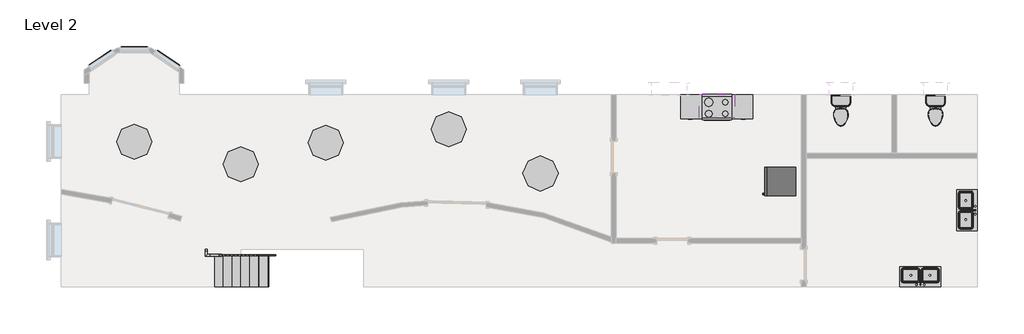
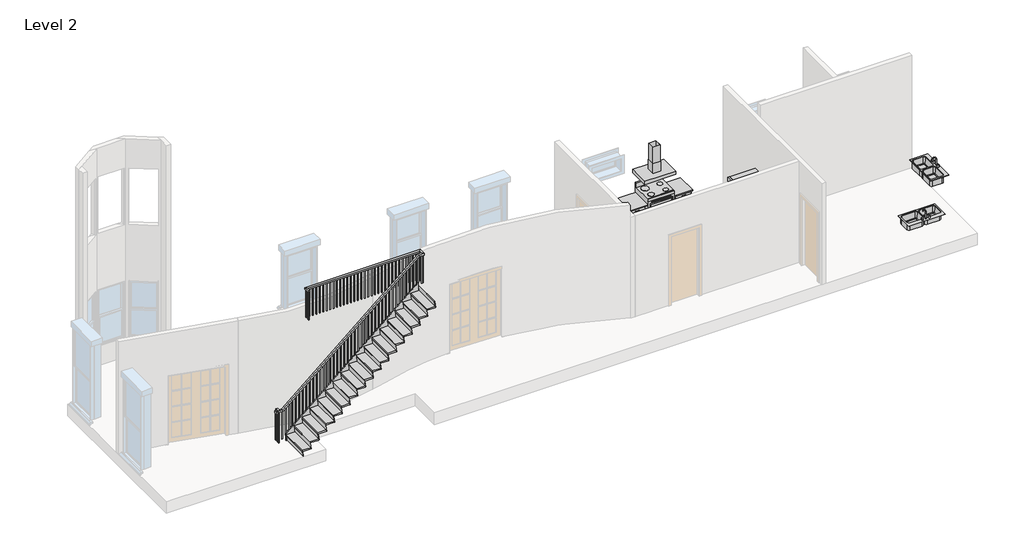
# One storey, part 2 of 2: 6 furniture elements, 6 proxies, 4 flow terminals, 1 member, 1 railing, 1 stair flight.
"""IFC4 building model written with IfcOpenShell, lengths in millimetres."""

from ifc_helpers import new_model, si_unit, frame, origin, place, context, project, spatial, polyline, outline, extrude, faceted_brep, transform, mapped, element, save
from components import bay_trim_box_faced_hosted_bay_trim_box_faced_hosted_1a43beb2, kitchen_exhausthood_kitchen_exhausthood_eb094368, proxy_fbb4c072, proxy_a13a33b2, flow_terminal_a53be723, flow_terminal_c7f2ea3e, toilet_domestic_3d_toilet_domestic_3d_f7549cf7, toilet_domestic_3d_toilet_domestic_3d_183bbd19, furniture_1bd23331, furniture_905aceb5, stair_flight_b2fd968c

model = new_model("IFC4")

# Units and contexts
model_context = context("Model", 3, world=origin())
ifc_project = project(units=[si_unit("LENGTHUNIT", "METRE", prefix="MILLI")], contexts=[model_context])

# Site, building, storey
site = spatial("IfcSite", under=ifc_project)
building = spatial("IfcBuilding", under=site)
storey = spatial("IfcBuildingStorey", under=building, Name="Level 2", Elevation=3505.2)

# Proxies
placement = place(None, origin())
bay_trim_box_faced_hosted_bay_trim_box_faced_hosted_shape = bay_trim_box_faced_hosted_bay_trim_box_faced_hosted_1a43beb2(model_context)
element("IfcBuildingElementProxy", 1, Name="Bay trim box faced hosted : Bay trim box faced hosted", ObjectType="Bay trim box faced hosted : Bay trim box faced hosted", at=placement, inside=storey, context=model_context, shape_type="MappedRepresentation", body=[
    mapped(bay_trim_box_faced_hosted_bay_trim_box_faced_hosted_shape, transform((-18108.7207329, 4424.3935985, 3698.6965292), x_axis=(-1.0, 0.0, 0.0), y_axis=(0.0, 0.0, 1.0), z_axis=(0.0, 1.0, 0.0))),
])
element("IfcBuildingElementProxy", 2, Name="Bay trim box faced hosted : Bay trim box faced hosted", ObjectType="Bay trim box faced hosted : Bay trim box faced hosted", at=placement, inside=storey, context=model_context, shape_type="MappedRepresentation", body=[
    mapped(bay_trim_box_faced_hosted_bay_trim_box_faced_hosted_shape, transform((-18975.4874091, 4146.0440673, 3698.6965292), x_axis=(-0.8290375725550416, -0.559192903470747, 0.0), y_axis=(0.0, 0.0, 1.0), z_axis=(-0.559192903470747, 0.8290375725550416, 0.0))),
])
element("IfcBuildingElementProxy", 3, Name="Bay trim box faced hosted : Bay trim box faced hosted", ObjectType="Bay trim box faced hosted : Bay trim box faced hosted", at=placement, inside=storey, context=model_context, shape_type="MappedRepresentation", body=[
    mapped(bay_trim_box_faced_hosted_bay_trim_box_faced_hosted_shape, transform((-17227.4903769, 4136.2751051, 3698.6965292), x_axis=(-0.8290375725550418, 0.5591929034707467, 0.0), y_axis=(0.0, 0.0, 1.0), z_axis=(0.5591929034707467, 0.8290375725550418, 0.0))),
])
kitchen_exhausthood_kitchen_exhausthood_shape = kitchen_exhausthood_kitchen_exhausthood_eb094368(model_context)
element("IfcBuildingElementProxy", 4, Name="Kitchen_ExhaustHood : Kitchen_ExhaustHood", ObjectType="Kitchen_ExhaustHood : Kitchen_ExhaustHood", at=placement, inside=storey, context=model_context, shape_type="MappedRepresentation", body=[
    mapped(kitchen_exhausthood_kitchen_exhausthood_shape, transform((-2932.2535292, 2913.0935985, 3962.4), x_axis=(1.0, 0.0, 0.0), y_axis=(0.0, 1.0, 0.0), z_axis=(0.0, 0.0, 1.0))),
])
proxy_shape = proxy_fbb4c072(model_context)
element("IfcBuildingElementProxy", 5, Name="Range : 30\" x 26\"", ObjectType="Range : 30\" x 26\"", at=placement, inside=storey, context=model_context, shape_type="MappedRepresentation", body=[
    mapped(proxy_shape, transform((-3313.2535292, 2557.5899218, 3505.2), x_axis=(1.0, 0.0, 0.0), y_axis=(0.0, 1.0, 0.0), z_axis=(0.0, 0.0, 1.0))),
])
proxy_2_shape = proxy_a13a33b2(model_context)
element("IfcBuildingElementProxy", 6, Name="Refrigerator : 30\" x 32\" RH", ObjectType="Refrigerator : 30\" x 32\" RH", at=placement, inside=storey, context=model_context, shape_type="MappedRepresentation", body=[
    mapped(proxy_2_shape, transform((-1276.1025007, 952.5310985, 3505.2), x_axis=(0.0, -1.0000000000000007, 0.0), y_axis=(1.0000000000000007, 0.0, 0.0), z_axis=(0.0, 0.0, 1.0))),
])

# Flow terminals
flow_terminal_shape = flow_terminal_a53be723(model_context)
element("IfcFlowTerminal", 7, ObjectType="Sink Kitchen-Double : 42\" x 21\"", at=placement, inside=storey, context=model_context, shape_type="MappedRepresentation", body=[
    mapped(flow_terminal_shape, transform((2379.3357114, -1529.5610004, 3505.2), x_axis=(-1.0000000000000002, 0.0, 0.0), y_axis=(0.0, -1.0000000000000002, 0.0), z_axis=(0.0, 0.0, 1.0))),
])
flow_terminal_2_shape = flow_terminal_c7f2ea3e(model_context)
element("IfcFlowTerminal", 8, ObjectType="Sink Kitchen-Double : 42\" x 21\"", at=placement, inside=storey, context=model_context, shape_type="MappedRepresentation", body=[
    mapped(flow_terminal_2_shape, transform((3580.5010697, 185.9543579, 3505.2), x_axis=(0.0, 1.0, 0.0), y_axis=(-1.0, 0.0, 0.0), z_axis=(0.0, 0.0, 1.0))),
])
toilet_domestic_3d_toilet_domestic_3d_shape = toilet_domestic_3d_toilet_domestic_3d_f7549cf7(model_context)
toilet_domestic_3d_toilet_domestic_3d_2_shape = toilet_domestic_3d_toilet_domestic_3d_183bbd19(model_context)
element("IfcFlowTerminal", 9, ObjectType="Toilet-Domestic-3D : Toilet-Domestic-3D", at=placement, inside=storey, context=model_context, shape_type="MappedRepresentation", body=[
    mapped(toilet_domestic_3d_toilet_domestic_3d_shape, transform((2757.3464708, 2697.1935985, 3505.2), x_axis=(1.0, 0.0, 0.0), y_axis=(0.0, 1.0, 0.0), z_axis=(0.0, 0.0, 1.0))),
    mapped(toilet_domestic_3d_toilet_domestic_3d_2_shape, transform((2757.3464708, 2697.1935985, 3505.2), x_axis=(1.0, 0.0, 0.0), y_axis=(0.0, 1.0, 0.0), z_axis=(0.0, 0.0, 1.0))),
])
element("IfcFlowTerminal", 10, ObjectType="Toilet-Domestic-3D : Toilet-Domestic-3D", at=placement, inside=storey, context=model_context, shape_type="MappedRepresentation", body=[
    mapped(toilet_domestic_3d_toilet_domestic_3d_shape, transform((293.5464708, 2697.1935985, 3505.2), x_axis=(1.0, 0.0, 0.0), y_axis=(0.0, 1.0, 0.0), z_axis=(0.0, 0.0, 1.0))),
    mapped(toilet_domestic_3d_toilet_domestic_3d_2_shape, transform((293.5464708, 2697.1935985, 3505.2), x_axis=(1.0, 0.0, 0.0), y_axis=(0.0, 1.0, 0.0), z_axis=(0.0, 0.0, 1.0))),
])

# Furniture
furniture_shape = furniture_1bd23331(model_context)
element("IfcFurniture", 11, ObjectType="Credenza : 72\" x 24\"", at=placement, inside=storey, context=model_context, shape_type="MappedRepresentation", body=[
    mapped(furniture_shape, transform((-2998.1477915, 2902.1632706, 3505.2), x_axis=(1.0, 0.0, 0.0), y_axis=(0.0, 1.0, 0.0), z_axis=(0.0, 0.0, 1.0))),
])
furniture_2_shape = furniture_905aceb5(model_context)
element("IfcFurniture", 12, ObjectType="Table-Dining Round w Chairs : 36\" Diameter", at=placement, inside=storey, context=model_context, shape_type="MappedRepresentation", body=[
    mapped(furniture_2_shape, transform((-18212.4027001, 2170.872287, 3505.2), x_axis=(1.0, 0.0, 0.0), y_axis=(0.0, 1.0, 0.0), z_axis=(0.0, 0.0, 1.0))),
])
element("IfcFurniture", 13, ObjectType="Table-Dining Round w Chairs : 36\" Diameter", at=placement, inside=storey, context=model_context, shape_type="MappedRepresentation", body=[
    mapped(furniture_2_shape, transform((-15441.1000395, 1586.672287, 3505.2), x_axis=(1.0, 0.0, 0.0), y_axis=(0.0, 1.0, 0.0), z_axis=(0.0, 0.0, 1.0))),
])
element("IfcFurniture", 14, ObjectType="Table-Dining Round w Chairs : 36\" Diameter", at=placement, inside=storey, context=model_context, shape_type="MappedRepresentation", body=[
    mapped(furniture_2_shape, transform((-13221.3354964, 2140.8845601, 3505.2), x_axis=(1.0, 0.0, 0.0), y_axis=(0.0, 1.0, 0.0), z_axis=(0.0, 0.0, 1.0))),
])
element("IfcFurniture", 15, ObjectType="Table-Dining Round w Chairs : 36\" Diameter", at=placement, inside=storey, context=model_context, shape_type="MappedRepresentation", body=[
    mapped(furniture_2_shape, transform((-7633.3354964, 1342.9481104, 3505.2), x_axis=(1.0, 0.0, 0.0), y_axis=(0.0, 1.0, 0.0), z_axis=(0.0, 0.0, 1.0))),
])
element("IfcFurniture", 16, ObjectType="Table-Dining Round w Chairs : 36\" Diameter", at=placement, inside=storey, context=model_context, shape_type="MappedRepresentation", body=[
    mapped(furniture_2_shape, transform((-10020.9354964, 2497.1094157, 3505.2), x_axis=(1.0, 0.0, 0.0), y_axis=(0.0, 1.0, 0.0), z_axis=(0.0, 0.0, 1.0))),
])

# Member
element("IfcMember", 17, ObjectType="Stringer - 1\" Width", at=placement, inside=storey, context=model_context, shape_type="SweptSolid", body=[
    extrude(outline(polyline([(3749.2282445, -16013.2535292), (3505.2, -16013.2535292), (3505.2, -15829.6894453), (6659.2972619, -12127.0535292), (7059.6949112, -12127.0535292), (3749.2282445, -16013.2535292)])), frame((0.0, -985.8064015, 0.0), z_axis=(0.0, 1.0, 0.0), x_axis=(0.0, 0.0, 1.0)), (0.0, 0.0, 1.0), 25.4),
])

# Railing
element("IfcRailing", 18, ObjectType="Handrail - Rectangular", at=placement, inside=storey, context=model_context, shape_type="SolidModel", body=[
    faceted_brep([(-16108.8496413, -947.7064015, 4466.1666667), (-16127.5535292, -947.7064015, 4516.9666667), (-12127.0535292, -947.7064015, 7924.8), (-12108.3496413, -947.7064015, 7874.0), (-16108.8496413, -998.5064015, 4466.1666667), (-12108.3496413, -998.5064015, 7874.0), (-16127.5535292, -998.5064015, 4516.9666667), (-12127.0535292, -998.5064015, 7924.8), (-12012.7535292, -947.7064015, 7924.8), (-12012.7535292, -947.7064015, 7874.0), (-11961.9535292, -998.5064015, 7874.0), (-11961.9535292, -998.5064015, 7924.8), (-12012.7535292, -846.1064015, 7924.8), (-12012.7535292, -846.1064015, 7874.0), (-11961.9535292, -795.3064015, 7874.0), (-11961.9535292, -795.3064015, 7924.8), (-15302.0535292, -846.1064015, 7924.8), (-15302.0535292, -846.1064015, 7874.0), (-15352.8535292, -795.3064015, 7874.0), (-15352.8535292, -795.3064015, 7924.8), (-16203.7535292, -820.7064015, 4419.6), (-16203.7535292, -820.7064015, 4368.8), (-16254.5535292, -820.7064015, 4368.8), (-16254.5535292, -820.7064015, 4419.6), (-16203.7535292, -871.5064015, 4419.6), (-16203.7535292, -922.3064015, 4368.8), (-16254.5535292, -922.3064015, 4368.8), (-16254.5535292, -871.5064015, 4419.6), (-16203.7535292, -871.5064015, 4516.9666667), (-16203.7535292, -922.3064015, 4466.1666667), (-16254.5535292, -922.3064015, 4466.1666667), (-16254.5535292, -871.5064015, 4516.9666667), (-16203.7535292, -947.7064015, 4516.9666667), (-16203.7535292, -947.7064015, 4466.1666667), (-16254.5535292, -998.5064015, 4466.1666667), (-16254.5535292, -998.5064015, 4516.9666667), (-15302.0535292, -960.4064015, 7924.8), (-15352.8535292, -960.4064015, 7924.8), (-15352.8535292, -960.4064015, 7874.0), (-15302.0535292, -960.4064015, 7874.0)], [[[0, 1, 2, 3]], [[4, 0, 3, 5]], [[6, 4, 5, 7]], [[1, 6, 7, 2]], [[3, 2, 8, 9]], [[5, 3, 9, 10]], [[7, 5, 10, 11]], [[2, 7, 11, 8]], [[9, 8, 12, 13]], [[10, 9, 13, 14]], [[11, 10, 14, 15]], [[8, 11, 15, 12]], [[13, 12, 16, 17]], [[14, 13, 17, 18]], [[15, 14, 18, 19]], [[12, 15, 19, 16]], [[20, 21, 22, 23]], [[21, 20, 24, 25]], [[22, 21, 25, 26]], [[23, 22, 26, 27]], [[20, 23, 27, 24]], [[25, 24, 28, 29]], [[26, 25, 29, 30]], [[27, 26, 30, 31]], [[24, 27, 31, 28]], [[29, 28, 32, 33]], [[30, 29, 33, 34]], [[31, 30, 34, 35]], [[28, 31, 35, 32]], [[33, 32, 1, 0]], [[34, 33, 0, 4]], [[35, 34, 4, 6]], [[32, 35, 6, 1]], [[36, 37, 38, 39]], [[17, 16, 36, 39]], [[18, 17, 39, 38]], [[19, 18, 38, 37]], [[16, 19, 37, 36]]]),
    extrude(outline(polyline([(-15317.9285292, -912.7814015), (-15317.9285292, -931.8314015), (-15336.9785292, -931.8314015), (-15336.9785292, -912.7814015), (-15317.9285292, -912.7814015)])), frame((0.0, 0.0, 7010.4), z_axis=(0.0, 0.0, 1.0), x_axis=(1.0, 0.0, 0.0)), (0.0, 0.0, 1.0), 863.6),
    extrude(outline(polyline([(-15229.0285292, -830.2314015), (-15248.0785292, -830.2314015), (-15248.0785292, -811.1814015), (-15229.0285292, -811.1814015), (-15229.0285292, -830.2314015)])), frame((0.0, 0.0, 7010.4), z_axis=(0.0, 0.0, 1.0), x_axis=(1.0, 0.0, 0.0)), (0.0, 0.0, 1.0), 863.6),
    extrude(outline(polyline([(-15127.4285292, -830.2314015), (-15146.4785292, -830.2314015), (-15146.4785292, -811.1814015), (-15127.4285292, -811.1814015), (-15127.4285292, -830.2314015)])), frame((0.0, 0.0, 7010.4), z_axis=(0.0, 0.0, 1.0), x_axis=(1.0, 0.0, 0.0)), (0.0, 0.0, 1.0), 863.6),
    extrude(outline(polyline([(-15025.8285292, -830.2314015), (-15044.8785292, -830.2314015), (-15044.8785292, -811.1814015), (-15025.8285292, -811.1814015), (-15025.8285292, -830.2314015)])), frame((0.0, 0.0, 7010.4), z_axis=(0.0, 0.0, 1.0), x_axis=(1.0, 0.0, 0.0)), (0.0, 0.0, 1.0), 863.6),
    extrude(outline(polyline([(-14924.2285292, -830.2314015), (-14943.2785292, -830.2314015), (-14943.2785292, -811.1814015), (-14924.2285292, -811.1814015), (-14924.2285292, -830.2314015)])), frame((0.0, 0.0, 7010.4), z_axis=(0.0, 0.0, 1.0), x_axis=(1.0, 0.0, 0.0)), (0.0, 0.0, 1.0), 863.6),
    extrude(outline(polyline([(-14822.6285292, -830.2314015), (-14841.6785292, -830.2314015), (-14841.6785292, -811.1814015), (-14822.6285292, -811.1814015), (-14822.6285292, -830.2314015)])), frame((0.0, 0.0, 7010.4), z_axis=(0.0, 0.0, 1.0), x_axis=(1.0, 0.0, 0.0)), (0.0, 0.0, 1.0), 863.6),
    extrude(outline(polyline([(-14721.0285292, -830.2314015), (-14740.0785292, -830.2314015), (-14740.0785292, -811.1814015), (-14721.0285292, -811.1814015), (-14721.0285292, -830.2314015)])), frame((0.0, 0.0, 7010.4), z_axis=(0.0, 0.0, 1.0), x_axis=(1.0, 0.0, 0.0)), (0.0, 0.0, 1.0), 863.6),
    extrude(outline(polyline([(-14619.4285292, -830.2314015), (-14638.4785292, -830.2314015), (-14638.4785292, -811.1814015), (-14619.4285292, -811.1814015), (-14619.4285292, -830.2314015)])), frame((0.0, 0.0, 7010.4), z_axis=(0.0, 0.0, 1.0), x_axis=(1.0, 0.0, 0.0)), (0.0, 0.0, 1.0), 863.6),
    extrude(outline(polyline([(-14517.8285292, -830.2314015), (-14536.8785292, -830.2314015), (-14536.8785292, -811.1814015), (-14517.8285292, -811.1814015), (-14517.8285292, -830.2314015)])), frame((0.0, 0.0, 7010.4), z_axis=(0.0, 0.0, 1.0), x_axis=(1.0, 0.0, 0.0)), (0.0, 0.0, 1.0), 863.6),
    extrude(outline(polyline([(-14416.2285292, -830.2314015), (-14435.2785292, -830.2314015), (-14435.2785292, -811.1814015), (-14416.2285292, -811.1814015), (-14416.2285292, -830.2314015)])), frame((0.0, 0.0, 7010.4), z_axis=(0.0, 0.0, 1.0), x_axis=(1.0, 0.0, 0.0)), (0.0, 0.0, 1.0), 863.6),
    extrude(outline(polyline([(-14314.6285292, -830.2314015), (-14333.6785292, -830.2314015), (-14333.6785292, -811.1814015), (-14314.6285292, -811.1814015), (-14314.6285292, -830.2314015)])), frame((0.0, 0.0, 7010.4), z_axis=(0.0, 0.0, 1.0), x_axis=(1.0, 0.0, 0.0)), (0.0, 0.0, 1.0), 863.6),
    extrude(outline(polyline([(-14213.0285292, -830.2314015), (-14232.0785292, -830.2314015), (-14232.0785292, -811.1814015), (-14213.0285292, -811.1814015), (-14213.0285292, -830.2314015)])), frame((0.0, 0.0, 7010.4), z_axis=(0.0, 0.0, 1.0), x_axis=(1.0, 0.0, 0.0)), (0.0, 0.0, 1.0), 863.6),
    extrude(outline(polyline([(-14111.4285292, -830.2314015), (-14130.4785292, -830.2314015), (-14130.4785292, -811.1814015), (-14111.4285292, -811.1814015), (-14111.4285292, -830.2314015)])), frame((0.0, 0.0, 7010.4), z_axis=(0.0, 0.0, 1.0), x_axis=(1.0, 0.0, 0.0)), (0.0, 0.0, 1.0), 863.6),
    extrude(outline(polyline([(-14009.8285292, -830.2314015), (-14028.8785292, -830.2314015), (-14028.8785292, -811.1814015), (-14009.8285292, -811.1814015), (-14009.8285292, -830.2314015)])), frame((0.0, 0.0, 7010.4), z_axis=(0.0, 0.0, 1.0), x_axis=(1.0, 0.0, 0.0)), (0.0, 0.0, 1.0), 863.6),
    extrude(outline(polyline([(-13908.2285292, -830.2314015), (-13927.2785292, -830.2314015), (-13927.2785292, -811.1814015), (-13908.2285292, -811.1814015), (-13908.2285292, -830.2314015)])), frame((0.0, 0.0, 7010.4), z_axis=(0.0, 0.0, 1.0), x_axis=(1.0, 0.0, 0.0)), (0.0, 0.0, 1.0), 863.6),
    extrude(outline(polyline([(-13806.6285292, -830.2314015), (-13825.6785292, -830.2314015), (-13825.6785292, -811.1814015), (-13806.6285292, -811.1814015), (-13806.6285292, -830.2314015)])), frame((0.0, 0.0, 7010.4), z_axis=(0.0, 0.0, 1.0), x_axis=(1.0, 0.0, 0.0)), (0.0, 0.0, 1.0), 863.6),
    extrude(outline(polyline([(-13705.0285292, -830.2314015), (-13724.0785292, -830.2314015), (-13724.0785292, -811.1814015), (-13705.0285292, -811.1814015), (-13705.0285292, -830.2314015)])), frame((0.0, 0.0, 7010.4), z_axis=(0.0, 0.0, 1.0), x_axis=(1.0, 0.0, 0.0)), (0.0, 0.0, 1.0), 863.6),
    extrude(outline(polyline([(-13603.4285292, -830.2314015), (-13622.4785292, -830.2314015), (-13622.4785292, -811.1814015), (-13603.4285292, -811.1814015), (-13603.4285292, -830.2314015)])), frame((0.0, 0.0, 7010.4), z_axis=(0.0, 0.0, 1.0), x_axis=(1.0, 0.0, 0.0)), (0.0, 0.0, 1.0), 863.6),
    extrude(outline(polyline([(-13501.8285292, -830.2314015), (-13520.8785292, -830.2314015), (-13520.8785292, -811.1814015), (-13501.8285292, -811.1814015), (-13501.8285292, -830.2314015)])), frame((0.0, 0.0, 7010.4), z_axis=(0.0, 0.0, 1.0), x_axis=(1.0, 0.0, 0.0)), (0.0, 0.0, 1.0), 863.6),
    extrude(outline(polyline([(-13400.2285292, -830.2314015), (-13419.2785292, -830.2314015), (-13419.2785292, -811.1814015), (-13400.2285292, -811.1814015), (-13400.2285292, -830.2314015)])), frame((0.0, 0.0, 7010.4), z_axis=(0.0, 0.0, 1.0), x_axis=(1.0, 0.0, 0.0)), (0.0, 0.0, 1.0), 863.6),
    extrude(outline(polyline([(-13298.6285292, -830.2314015), (-13317.6785292, -830.2314015), (-13317.6785292, -811.1814015), (-13298.6285292, -811.1814015), (-13298.6285292, -830.2314015)])), frame((0.0, 0.0, 7010.4), z_axis=(0.0, 0.0, 1.0), x_axis=(1.0, 0.0, 0.0)), (0.0, 0.0, 1.0), 863.6),
    extrude(outline(polyline([(-13197.0285292, -830.2314015), (-13216.0785292, -830.2314015), (-13216.0785292, -811.1814015), (-13197.0285292, -811.1814015), (-13197.0285292, -830.2314015)])), frame((0.0, 0.0, 7010.4), z_axis=(0.0, 0.0, 1.0), x_axis=(1.0, 0.0, 0.0)), (0.0, 0.0, 1.0), 863.6),
    extrude(outline(polyline([(-13095.4285292, -830.2314015), (-13114.4785292, -830.2314015), (-13114.4785292, -811.1814015), (-13095.4285292, -811.1814015), (-13095.4285292, -830.2314015)])), frame((0.0, 0.0, 7010.4), z_axis=(0.0, 0.0, 1.0), x_axis=(1.0, 0.0, 0.0)), (0.0, 0.0, 1.0), 863.6),
    extrude(outline(polyline([(-12993.8285292, -830.2314015), (-13012.8785292, -830.2314015), (-13012.8785292, -811.1814015), (-12993.8285292, -811.1814015), (-12993.8285292, -830.2314015)])), frame((0.0, 0.0, 7010.4), z_axis=(0.0, 0.0, 1.0), x_axis=(1.0, 0.0, 0.0)), (0.0, 0.0, 1.0), 863.6),
    extrude(outline(polyline([(-12892.2285292, -830.2314015), (-12911.2785292, -830.2314015), (-12911.2785292, -811.1814015), (-12892.2285292, -811.1814015), (-12892.2285292, -830.2314015)])), frame((0.0, 0.0, 7010.4), z_axis=(0.0, 0.0, 1.0), x_axis=(1.0, 0.0, 0.0)), (0.0, 0.0, 1.0), 863.6),
    extrude(outline(polyline([(-12790.6285292, -830.2314015), (-12809.6785292, -830.2314015), (-12809.6785292, -811.1814015), (-12790.6285292, -811.1814015), (-12790.6285292, -830.2314015)])), frame((0.0, 0.0, 7010.4), z_axis=(0.0, 0.0, 1.0), x_axis=(1.0, 0.0, 0.0)), (0.0, 0.0, 1.0), 863.6),
    extrude(outline(polyline([(-12689.0285292, -830.2314015), (-12708.0785292, -830.2314015), (-12708.0785292, -811.1814015), (-12689.0285292, -811.1814015), (-12689.0285292, -830.2314015)])), frame((0.0, 0.0, 7010.4), z_axis=(0.0, 0.0, 1.0), x_axis=(1.0, 0.0, 0.0)), (0.0, 0.0, 1.0), 863.6),
    extrude(outline(polyline([(-12587.4285292, -830.2314015), (-12606.4785292, -830.2314015), (-12606.4785292, -811.1814015), (-12587.4285292, -811.1814015), (-12587.4285292, -830.2314015)])), frame((0.0, 0.0, 7010.4), z_axis=(0.0, 0.0, 1.0), x_axis=(1.0, 0.0, 0.0)), (0.0, 0.0, 1.0), 863.6),
    extrude(outline(polyline([(-12485.8285292, -830.2314015), (-12504.8785292, -830.2314015), (-12504.8785292, -811.1814015), (-12485.8285292, -811.1814015), (-12485.8285292, -830.2314015)])), frame((0.0, 0.0, 7010.4), z_axis=(0.0, 0.0, 1.0), x_axis=(1.0, 0.0, 0.0)), (0.0, 0.0, 1.0), 863.6),
    extrude(outline(polyline([(-12384.2285292, -830.2314015), (-12403.2785292, -830.2314015), (-12403.2785292, -811.1814015), (-12384.2285292, -811.1814015), (-12384.2285292, -830.2314015)])), frame((0.0, 0.0, 7010.4), z_axis=(0.0, 0.0, 1.0), x_axis=(1.0, 0.0, 0.0)), (0.0, 0.0, 1.0), 863.6),
    extrude(outline(polyline([(-12282.6285292, -830.2314015), (-12301.6785292, -830.2314015), (-12301.6785292, -811.1814015), (-12282.6285292, -811.1814015), (-12282.6285292, -830.2314015)])), frame((0.0, 0.0, 7010.4), z_axis=(0.0, 0.0, 1.0), x_axis=(1.0, 0.0, 0.0)), (0.0, 0.0, 1.0), 863.6),
    extrude(outline(polyline([(-12181.0285292, -830.2314015), (-12200.0785292, -830.2314015), (-12200.0785292, -811.1814015), (-12181.0285292, -811.1814015), (-12181.0285292, -830.2314015)])), frame((0.0, 0.0, 7010.4), z_axis=(0.0, 0.0, 1.0), x_axis=(1.0, 0.0, 0.0)), (0.0, 0.0, 1.0), 863.6),
    extrude(outline(polyline([(-12079.4285292, -830.2314015), (-12098.4785292, -830.2314015), (-12098.4785292, -811.1814015), (-12079.4285292, -811.1814015), (-12079.4285292, -830.2314015)])), frame((0.0, 0.0, 7010.4), z_axis=(0.0, 0.0, 1.0), x_axis=(1.0, 0.0, 0.0)), (0.0, 0.0, 1.0), 863.6),
    extrude(outline(polyline([(-11996.8785292, -881.0314015), (-11996.8785292, -861.9814015), (-11977.8285292, -861.9814015), (-11977.8285292, -881.0314015), (-11996.8785292, -881.0314015)])), frame((0.0, 0.0, 7010.4), z_axis=(0.0, 0.0, 1.0), x_axis=(1.0, 0.0, 0.0)), (0.0, 0.0, 1.0), 863.6),
    extrude(outline(polyline([(-12034.9785292, -963.5814015), (-12015.9285292, -963.5814015), (-12015.9285292, -982.6314015), (-12034.9785292, -982.6314015), (-12034.9785292, -963.5814015)])), frame((0.0, 0.0, 7010.4), z_axis=(0.0, 0.0, 1.0), x_axis=(1.0, 0.0, 0.0)), (0.0, 0.0, 1.0), 863.6),
    extrude(outline(polyline([(7817.497614, -12174.6785292), (7019.1254667, -12174.6785292), (7035.3532445, -12155.6285292), (7833.7253918, -12155.6285292), (7817.497614, -12174.6785292)])), frame((0.0, -982.6314015, 0.0), z_axis=(0.0, 1.0, 0.0), x_axis=(0.0, 0.0, 1.0)), (0.0, 0.0, 1.0), 19.05),
    extrude(outline(polyline([(7730.9494659, -12276.2785292), (6932.5773186, -12276.2785292), (6948.8050963, -12257.2285292), (7747.1772436, -12257.2285292), (7730.9494659, -12276.2785292)])), frame((0.0, -982.6314015, 0.0), z_axis=(0.0, 1.0, 0.0), x_axis=(0.0, 0.0, 1.0)), (0.0, 0.0, 1.0), 19.05),
    extrude(outline(polyline([(7644.4013177, -12377.8785292), (6846.0291704, -12377.8785292), (6862.2569482, -12358.8285292), (7660.6290955, -12358.8285292), (7644.4013177, -12377.8785292)])), frame((0.0, -982.6314015, 0.0), z_axis=(0.0, 1.0, 0.0), x_axis=(0.0, 0.0, 1.0)), (0.0, 0.0, 1.0), 19.05),
    extrude(outline(polyline([(7557.8531696, -12479.4785292), (6759.4810223, -12479.4785292), (6775.7088, -12460.4285292), (7574.0809473, -12460.4285292), (7557.8531696, -12479.4785292)])), frame((0.0, -982.6314015, 0.0), z_axis=(0.0, 1.0, 0.0), x_axis=(0.0, 0.0, 1.0)), (0.0, 0.0, 1.0), 19.05),
    extrude(outline(polyline([(7471.3050214, -12581.0785292), (6672.9328741, -12581.0785292), (6689.1606519, -12562.0285292), (7487.5327992, -12562.0285292), (7471.3050214, -12581.0785292)])), frame((0.0, -982.6314015, 0.0), z_axis=(0.0, 1.0, 0.0), x_axis=(0.0, 0.0, 1.0)), (0.0, 0.0, 1.0), 19.05),
    extrude(outline(polyline([(7384.7568733, -12682.6785292), (6586.384726, -12682.6785292), (6602.6125038, -12663.6285292), (7400.984651, -12663.6285292), (7384.7568733, -12682.6785292)])), frame((0.0, -982.6314015, 0.0), z_axis=(0.0, 1.0, 0.0), x_axis=(0.0, 0.0, 1.0)), (0.0, 0.0, 1.0), 19.05),
    extrude(outline(polyline([(7298.2087251, -12784.2785292), (6499.8365778, -12784.2785292), (6516.0643556, -12765.2285292), (7314.4365029, -12765.2285292), (7298.2087251, -12784.2785292)])), frame((0.0, -982.6314015, 0.0), z_axis=(0.0, 1.0, 0.0), x_axis=(0.0, 0.0, 1.0)), (0.0, 0.0, 1.0), 19.05),
    extrude(outline(polyline([(7211.660577, -12885.8785292), (6413.2884297, -12885.8785292), (6429.5162075, -12866.8285292), (7227.8883548, -12866.8285292), (7211.660577, -12885.8785292)])), frame((0.0, -982.6314015, 0.0), z_axis=(0.0, 1.0, 0.0), x_axis=(0.0, 0.0, 1.0)), (0.0, 0.0, 1.0), 19.05),
    extrude(outline(polyline([(7125.1124288, -12987.4785292), (6326.7402815, -12987.4785292), (6342.9680593, -12968.4285292), (7141.3402066, -12968.4285292), (7125.1124288, -12987.4785292)])), frame((0.0, -982.6314015, 0.0), z_axis=(0.0, 1.0, 0.0), x_axis=(0.0, 0.0, 1.0)), (0.0, 0.0, 1.0), 19.05),
    extrude(outline(polyline([(7038.5642807, -13089.0785292), (6240.1921334, -13089.0785292), (6256.4199112, -13070.0285292), (7054.7920585, -13070.0285292), (7038.5642807, -13089.0785292)])), frame((0.0, -982.6314015, 0.0), z_axis=(0.0, 1.0, 0.0), x_axis=(0.0, 0.0, 1.0)), (0.0, 0.0, 1.0), 19.05),
    extrude(outline(polyline([(6952.0161325, -13190.6785292), (6153.6439852, -13190.6785292), (6169.871763, -13171.6285292), (6968.2439103, -13171.6285292), (6952.0161325, -13190.6785292)])), frame((0.0, -982.6314015, 0.0), z_axis=(0.0, 1.0, 0.0), x_axis=(0.0, 0.0, 1.0)), (0.0, 0.0, 1.0), 19.05),
    extrude(outline(polyline([(6865.4679844, -13292.2785292), (6067.0958371, -13292.2785292), (6083.3236149, -13273.2285292), (6881.6957622, -13273.2285292), (6865.4679844, -13292.2785292)])), frame((0.0, -982.6314015, 0.0), z_axis=(0.0, 1.0, 0.0), x_axis=(0.0, 0.0, 1.0)), (0.0, 0.0, 1.0), 19.05),
    extrude(outline(polyline([(6778.9198362, -13393.8785292), (5980.5476889, -13393.8785292), (5996.7754667, -13374.8285292), (6795.147614, -13374.8285292), (6778.9198362, -13393.8785292)])), frame((0.0, -982.6314015, 0.0), z_axis=(0.0, 1.0, 0.0), x_axis=(0.0, 0.0, 1.0)), (0.0, 0.0, 1.0), 19.05),
    extrude(outline(polyline([(6692.3716881, -13495.4785292), (5893.9995408, -13495.4785292), (5910.2273186, -13476.4285292), (6708.5994659, -13476.4285292), (6692.3716881, -13495.4785292)])), frame((0.0, -982.6314015, 0.0), z_axis=(0.0, 1.0, 0.0), x_axis=(0.0, 0.0, 1.0)), (0.0, 0.0, 1.0), 19.05),
    extrude(outline(polyline([(6605.8235399, -13597.0785292), (5807.4513926, -13597.0785292), (5823.6791704, -13578.0285292), (6622.0513177, -13578.0285292), (6605.8235399, -13597.0785292)])), frame((0.0, -982.6314015, 0.0), z_axis=(0.0, 1.0, 0.0), x_axis=(0.0, 0.0, 1.0)), (0.0, 0.0, 1.0), 19.05),
    extrude(outline(polyline([(6519.2753918, -13698.6785292), (5720.9032445, -13698.6785292), (5737.1310223, -13679.6285292), (6535.5031696, -13679.6285292), (6519.2753918, -13698.6785292)])), frame((0.0, -982.6314015, 0.0), z_axis=(0.0, 1.0, 0.0), x_axis=(0.0, 0.0, 1.0)), (0.0, 0.0, 1.0), 19.05),
    extrude(outline(polyline([(6432.7272436, -13800.2785292), (5634.3550963, -13800.2785292), (5650.5828741, -13781.2285292), (6448.9550214, -13781.2285292), (6432.7272436, -13800.2785292)])), frame((0.0, -982.6314015, 0.0), z_axis=(0.0, 1.0, 0.0), x_axis=(0.0, 0.0, 1.0)), (0.0, 0.0, 1.0), 19.05),
    extrude(outline(polyline([(6346.1790955, -13901.8785292), (5547.8069482, -13901.8785292), (5564.034726, -13882.8285292), (6362.4068733, -13882.8285292), (6346.1790955, -13901.8785292)])), frame((0.0, -982.6314015, 0.0), z_axis=(0.0, 1.0, 0.0), x_axis=(0.0, 0.0, 1.0)), (0.0, 0.0, 1.0), 19.05),
    extrude(outline(polyline([(6259.6309473, -14003.4785292), (5461.2588, -14003.4785292), (5477.4865778, -13984.4285292), (6275.8587251, -13984.4285292), (6259.6309473, -14003.4785292)])), frame((0.0, -982.6314015, 0.0), z_axis=(0.0, 1.0, 0.0), x_axis=(0.0, 0.0, 1.0)), (0.0, 0.0, 1.0), 19.05),
    extrude(outline(polyline([(6173.0827992, -14105.0785292), (5374.7106519, -14105.0785292), (5390.9384297, -14086.0285292), (6189.310577, -14086.0285292), (6173.0827992, -14105.0785292)])), frame((0.0, -982.6314015, 0.0), z_axis=(0.0, 1.0, 0.0), x_axis=(0.0, 0.0, 1.0)), (0.0, 0.0, 1.0), 19.05),
    extrude(outline(polyline([(6086.534651, -14206.6785292), (5288.1625038, -14206.6785292), (5304.3902815, -14187.6285292), (6102.7624288, -14187.6285292), (6086.534651, -14206.6785292)])), frame((0.0, -982.6314015, 0.0), z_axis=(0.0, 1.0, 0.0), x_axis=(0.0, 0.0, 1.0)), (0.0, 0.0, 1.0), 19.05),
    extrude(outline(polyline([(5999.9865029, -14308.2785292), (5201.6143556, -14308.2785292), (5217.8421334, -14289.2285292), (6016.2142807, -14289.2285292), (5999.9865029, -14308.2785292)])), frame((0.0, -982.6314015, 0.0), z_axis=(0.0, 1.0, 0.0), x_axis=(0.0, 0.0, 1.0)), (0.0, 0.0, 1.0), 19.05),
    extrude(outline(polyline([(5913.4383548, -14409.8785292), (5115.0662075, -14409.8785292), (5131.2939852, -14390.8285292), (5929.6661325, -14390.8285292), (5913.4383548, -14409.8785292)])), frame((0.0, -982.6314015, 0.0), z_axis=(0.0, 1.0, 0.0), x_axis=(0.0, 0.0, 1.0)), (0.0, 0.0, 1.0), 19.05),
    extrude(outline(polyline([(5826.8902066, -14511.4785292), (5028.5180593, -14511.4785292), (5044.7458371, -14492.4285292), (5843.1179844, -14492.4285292), (5826.8902066, -14511.4785292)])), frame((0.0, -982.6314015, 0.0), z_axis=(0.0, 1.0, 0.0), x_axis=(0.0, 0.0, 1.0)), (0.0, 0.0, 1.0), 19.05),
    extrude(outline(polyline([(5740.3420585, -14613.0785292), (4941.9699112, -14613.0785292), (4958.1976889, -14594.0285292), (5756.5698362, -14594.0285292), (5740.3420585, -14613.0785292)])), frame((0.0, -982.6314015, 0.0), z_axis=(0.0, 1.0, 0.0), x_axis=(0.0, 0.0, 1.0)), (0.0, 0.0, 1.0), 19.05),
    extrude(outline(polyline([(5653.7939103, -14714.6785292), (4855.421763, -14714.6785292), (4871.6495408, -14695.6285292), (5670.0216881, -14695.6285292), (5653.7939103, -14714.6785292)])), frame((0.0, -982.6314015, 0.0), z_axis=(0.0, 1.0, 0.0), x_axis=(0.0, 0.0, 1.0)), (0.0, 0.0, 1.0), 19.05),
    extrude(outline(polyline([(5567.2457622, -14816.2785292), (4768.8736149, -14816.2785292), (4785.1013926, -14797.2285292), (5583.4735399, -14797.2285292), (5567.2457622, -14816.2785292)])), frame((0.0, -982.6314015, 0.0), z_axis=(0.0, 1.0, 0.0), x_axis=(0.0, 0.0, 1.0)), (0.0, 0.0, 1.0), 19.05),
    extrude(outline(polyline([(5480.697614, -14917.8785292), (4682.3254667, -14917.8785292), (4698.5532445, -14898.8285292), (5496.9253918, -14898.8285292), (5480.697614, -14917.8785292)])), frame((0.0, -982.6314015, 0.0), z_axis=(0.0, 1.0, 0.0), x_axis=(0.0, 0.0, 1.0)), (0.0, 0.0, 1.0), 19.05),
    extrude(outline(polyline([(5394.1494659, -15019.4785292), (4595.7773186, -15019.4785292), (4612.0050963, -15000.4285292), (5410.3772436, -15000.4285292), (5394.1494659, -15019.4785292)])), frame((0.0, -982.6314015, 0.0), z_axis=(0.0, 1.0, 0.0), x_axis=(0.0, 0.0, 1.0)), (0.0, 0.0, 1.0), 19.05),
    extrude(outline(polyline([(5307.6013177, -15121.0785292), (4509.2291704, -15121.0785292), (4525.4569482, -15102.0285292), (5323.8290955, -15102.0285292), (5307.6013177, -15121.0785292)])), frame((0.0, -982.6314015, 0.0), z_axis=(0.0, 1.0, 0.0), x_axis=(0.0, 0.0, 1.0)), (0.0, 0.0, 1.0), 19.05),
    extrude(outline(polyline([(5221.0531696, -15222.6785292), (4422.6810223, -15222.6785292), (4438.9088, -15203.6285292), (5237.2809473, -15203.6285292), (5221.0531696, -15222.6785292)])), frame((0.0, -982.6314015, 0.0), z_axis=(0.0, 1.0, 0.0), x_axis=(0.0, 0.0, 1.0)), (0.0, 0.0, 1.0), 19.05),
    extrude(outline(polyline([(5134.5050214, -15324.2785292), (4336.1328741, -15324.2785292), (4352.3606519, -15305.2285292), (5150.7327992, -15305.2285292), (5134.5050214, -15324.2785292)])), frame((0.0, -982.6314015, 0.0), z_axis=(0.0, 1.0, 0.0), x_axis=(0.0, 0.0, 1.0)), (0.0, 0.0, 1.0), 19.05),
    extrude(outline(polyline([(5047.9568733, -15425.8785292), (4249.584726, -15425.8785292), (4265.8125038, -15406.8285292), (5064.184651, -15406.8285292), (5047.9568733, -15425.8785292)])), frame((0.0, -982.6314015, 0.0), z_axis=(0.0, 1.0, 0.0), x_axis=(0.0, 0.0, 1.0)), (0.0, 0.0, 1.0), 19.05),
    extrude(outline(polyline([(4961.4087251, -15527.4785292), (4163.0365778, -15527.4785292), (4179.2643556, -15508.4285292), (4977.6365029, -15508.4285292), (4961.4087251, -15527.4785292)])), frame((0.0, -982.6314015, 0.0), z_axis=(0.0, 1.0, 0.0), x_axis=(0.0, 0.0, 1.0)), (0.0, 0.0, 1.0), 19.05),
    extrude(outline(polyline([(4874.860577, -15629.0785292), (4076.4884297, -15629.0785292), (4092.7162075, -15610.0285292), (4891.0883548, -15610.0285292), (4874.860577, -15629.0785292)])), frame((0.0, -982.6314015, 0.0), z_axis=(0.0, 1.0, 0.0), x_axis=(0.0, 0.0, 1.0)), (0.0, 0.0, 1.0), 19.05),
    extrude(outline(polyline([(4788.3124288, -15730.6785292), (3989.9402815, -15730.6785292), (4006.1680593, -15711.6285292), (4804.5402066, -15711.6285292), (4788.3124288, -15730.6785292)])), frame((0.0, -982.6314015, 0.0), z_axis=(0.0, 1.0, 0.0), x_axis=(0.0, 0.0, 1.0)), (0.0, 0.0, 1.0), 19.05),
    extrude(outline(polyline([(4701.7642807, -15832.2785292), (3903.3921334, -15832.2785292), (3919.6199112, -15813.2285292), (4717.9920585, -15813.2285292), (4701.7642807, -15832.2785292)])), frame((0.0, -982.6314015, 0.0), z_axis=(0.0, 1.0, 0.0), x_axis=(0.0, 0.0, 1.0)), (0.0, 0.0, 1.0), 19.05),
    extrude(outline(polyline([(4615.2161325, -15933.8785292), (3816.8439852, -15933.8785292), (3833.071763, -15914.8285292), (4631.4439103, -15914.8285292), (4615.2161325, -15933.8785292)])), frame((0.0, -982.6314015, 0.0), z_axis=(0.0, 1.0, 0.0), x_axis=(0.0, 0.0, 1.0)), (0.0, 0.0, 1.0), 19.05),
    extrude(outline(polyline([(4528.6679844, -16035.4785292), (3689.1148148, -16035.4785292), (3689.1148148, -16016.4285292), (4544.8957622, -16016.4285292), (4528.6679844, -16035.4785292)])), frame((0.0, -982.6314015, 0.0), z_axis=(0.0, 1.0, 0.0), x_axis=(0.0, 0.0, 1.0)), (0.0, 0.0, 1.0), 19.05),
    extrude(outline(polyline([(-16137.0785292, -963.5814015), (-16118.0285292, -963.5814015), (-16118.0285292, -982.6314015), (-16137.0785292, -982.6314015), (-16137.0785292, -963.5814015)])), frame((0.0, 0.0, 3602.5666667), z_axis=(0.0, 0.0, 1.0), x_axis=(1.0, 0.0, 0.0)), (0.0, 0.0, 1.0), 863.6),
    extrude(outline(polyline([(-16219.6285292, -912.7814015), (-16219.6285292, -931.8314015), (-16238.6785292, -931.8314015), (-16238.6785292, -912.7814015), (-16219.6285292, -912.7814015)])), frame((0.0, 0.0, 3505.2), z_axis=(0.0, 0.0, 1.0), x_axis=(1.0, 0.0, 0.0)), (0.0, 0.0, 1.0), 863.6),
    extrude(outline(polyline([(-15317.9285292, -830.2314015), (-15336.9785292, -830.2314015), (-15336.9785292, -811.1814015), (-15317.9285292, -811.1814015), (-15317.9285292, -830.2314015)])), frame((0.0, 0.0, 7010.4), z_axis=(0.0, 0.0, 1.0), x_axis=(1.0, 0.0, 0.0)), (0.0, 0.0, 1.0), 863.6),
    extrude(outline(polyline([(-11996.8785292, -830.2314015), (-11996.8785292, -811.1814015), (-11977.8285292, -811.1814015), (-11977.8285292, -830.2314015), (-11996.8785292, -830.2314015)])), frame((0.0, 0.0, 7010.4), z_axis=(0.0, 0.0, 1.0), x_axis=(1.0, 0.0, 0.0)), (0.0, 0.0, 1.0), 863.6),
    extrude(outline(polyline([(-11996.8785292, -963.5814015), (-11977.8285292, -963.5814015), (-11977.8285292, -982.6314015), (-11996.8785292, -982.6314015), (-11996.8785292, -963.5814015)])), frame((0.0, 0.0, 7010.4), z_axis=(0.0, 0.0, 1.0), x_axis=(1.0, 0.0, 0.0)), (0.0, 0.0, 1.0), 863.6),
    extrude(outline(polyline([(7874.0, -12136.5785292), (7051.5810223, -12136.5785292), (7067.8088, -12117.5285292), (7874.0, -12117.5285292), (7874.0, -12136.5785292)])), frame((0.0, -982.6314015, 0.0), z_axis=(0.0, 1.0, 0.0), x_axis=(0.0, 0.0, 1.0)), (0.0, 0.0, 1.0), 19.05),
    extrude(outline(polyline([(-16238.6785292, -963.5814015), (-16219.6285292, -963.5814015), (-16219.6285292, -982.6314015), (-16238.6785292, -982.6314015), (-16238.6785292, -963.5814015)])), frame((0.0, 0.0, 3505.2), z_axis=(0.0, 0.0, 1.0), x_axis=(1.0, 0.0, 0.0)), (0.0, 0.0, 1.0), 960.9666667),
    extrude(outline(polyline([(-15317.9285292, -941.3564015), (-15317.9285292, -960.4064015), (-15336.9785292, -960.4064015), (-15336.9785292, -941.3564015), (-15317.9285292, -941.3564015)])), frame((0.0, 0.0, 7010.4), z_axis=(0.0, 0.0, 1.0), x_axis=(1.0, 0.0, 0.0)), (0.0, 0.0, 1.0), 863.6),
    extrude(outline(polyline([(-16219.6285292, -820.7064015), (-16219.6285292, -839.7564015), (-16238.6785292, -839.7564015), (-16238.6785292, -820.7064015), (-16219.6285292, -820.7064015)])), frame((0.0, 0.0, 3505.2), z_axis=(0.0, 0.0, 1.0), x_axis=(1.0, 0.0, 0.0)), (0.0, 0.0, 1.0), 863.6),
])

# Stair flight
stair_flight_shape = stair_flight_b2fd968c(model_context)
element("IfcStairFlight", 19, ObjectType="1 5/8\" Tread 1\" Nosing 1/4\" Riser", at=placement, inside=storey, context=model_context, shape_type="MappedRepresentation", body=[
    mapped(stair_flight_shape, transform((0.0, 0.0, 0.0), x_axis=(1.0, 0.0, 0.0), y_axis=(0.0, 1.0, 0.0), z_axis=(0.0, 0.0, 1.0))),
])

save(model, "model.ifc")
